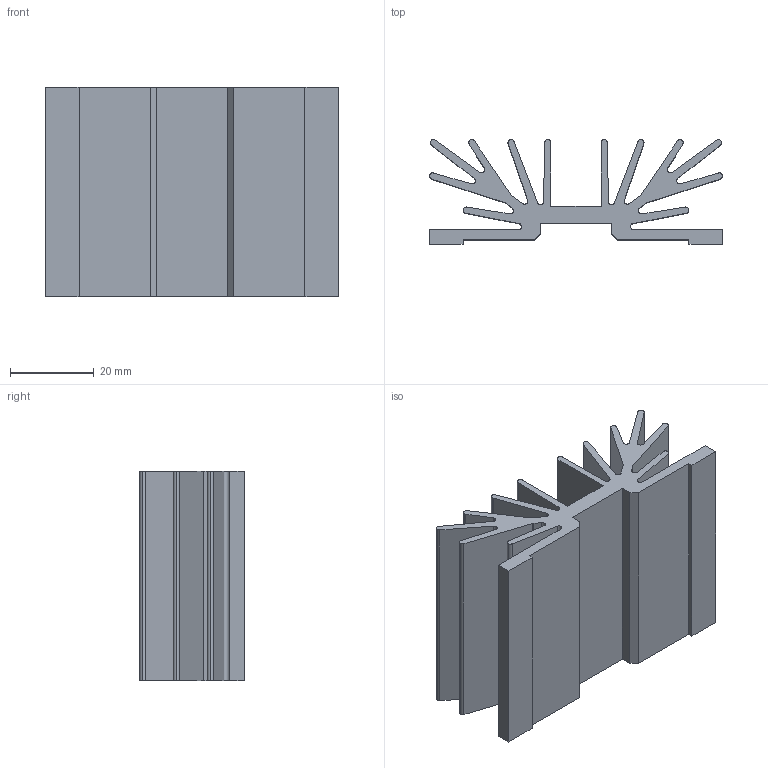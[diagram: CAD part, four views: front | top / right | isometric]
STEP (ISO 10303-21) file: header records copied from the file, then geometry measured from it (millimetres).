
FILE_DESCRIPTION (( 'STEP AP203' ), '1' );
FILE_NAME ('PR 135-50.step', '2002-10-20T23:25:05', ( 'Wolfgang Müller' ), ( 'DPS' ), 'SwSTEP 2.0', 'SolidWorks 2002264', '' );
FILE_SCHEMA (( 'CONFIG_CONTROL_DESIGN' ));
Length unit declared in the file: millimetre
Products named in the file (1): PR 135-50
Bounding box: 70 x 25 x 50 mm (x, y, z)
Volume: 32456.9 mm3; surface area: 27360.4 mm2
Topology: 1 solids, 1 shells, 84 faces, 246 edges, 164 vertices
Faces by surface type: plane 46, cylinder 38
Entity records: 2883 total; most frequent: CARTESIAN_POINT 495, ORIENTED_EDGE 492, DIRECTION 492, EDGE_CURVE 246, LINE 170, VECTOR 170, VERTEX_POINT 164, AXIS2_PLACEMENT_3D 161
